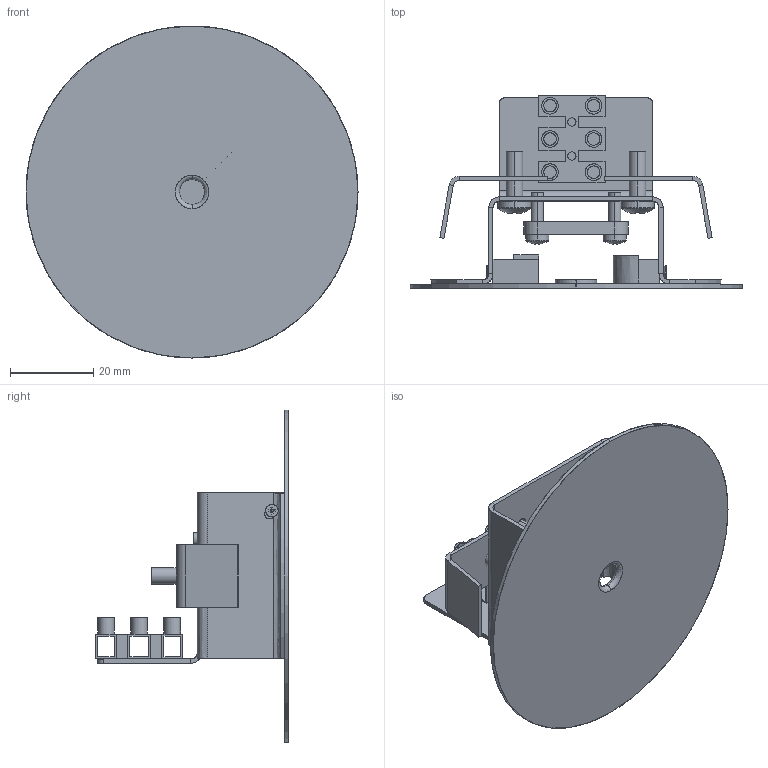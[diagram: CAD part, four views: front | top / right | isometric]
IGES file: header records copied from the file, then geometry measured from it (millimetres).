
Start section: SolidWorks IGES file using analytic representation for surfaces
Global section: file name: F:\GABRYSIA\MODELE 3D\_CAMELEON\PUSZKI WWW\CANOPY_F_8548_8547_WWW\CANOPY_F_8548_8547.IGS; native system: SolidWorks 2017; preprocessor: SolidWorks 2017; author: Togambi; date: 200513.150259; units: millimetre
Bounding box: 80 x 46.5 x 80 mm (x, y, z)
Surface area: 40622 mm2 (no closed solid volume)
Topology: 0 solids, 0 shells, 522 faces, 5631 edges, 5619 vertices
Faces by surface type: bspline 340, revolution 182
